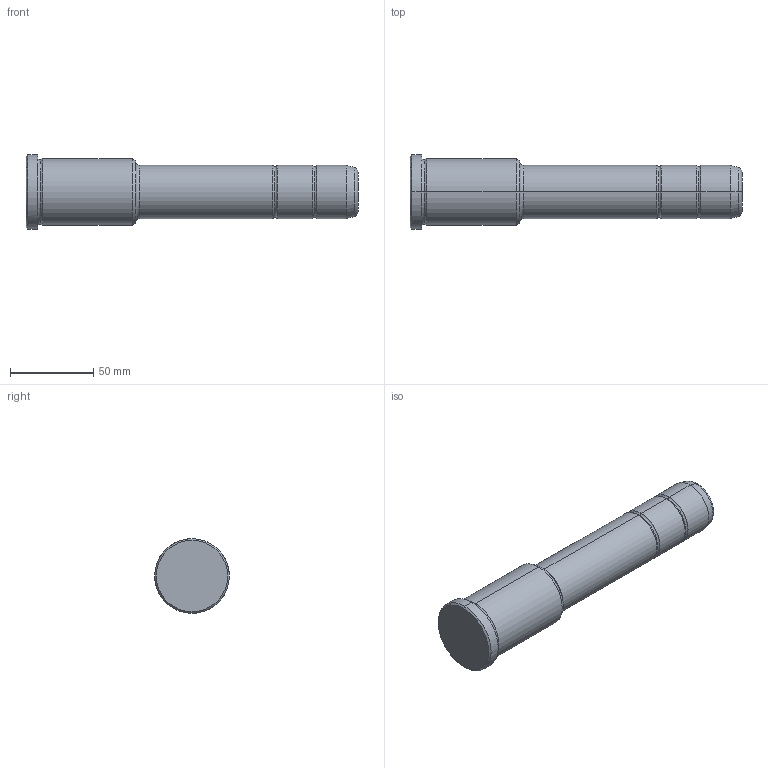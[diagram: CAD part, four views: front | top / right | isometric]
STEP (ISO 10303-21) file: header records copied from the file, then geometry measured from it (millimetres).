
FILE_DESCRIPTION(('CATIA V5 STEP Exchange'),'2;1');
FILE_NAME('C:\Users\Utente\Desktop\IO LAVORO\3D X SITO CF\X SITO\PLASTICA\351\351-32X66X200.stp','2021-09-07T12:28:10+00:00',('none'),('none'),'CATIA Version 5 Release 20 GA (IN-10)','CATIA V5 STEP AP203','none');
FILE_SCHEMA(('CONFIG_CONTROL_DESIGN'));
Length unit declared in the file: millimetre
Products named in the file (1): 351-32X66X200
Bounding box: 200 x 45 x 45 mm (x, y, z)
Volume: 191838.5 mm3; surface area: 24626.5 mm2
Topology: 1 solids, 1 shells, 36 faces, 102 edges, 70 vertices
Faces by surface type: torus 16, cylinder 10, cone 6, plane 4
Entity records: 1292 total; most frequent: CARTESIAN_POINT 321, ORIENTED_EDGE 204, DIRECTION 166, AXIS2_PLACEMENT_3D 115, EDGE_CURVE 102, CIRCLE 78, VERTEX_POINT 70, EDGE_LOOP 38
